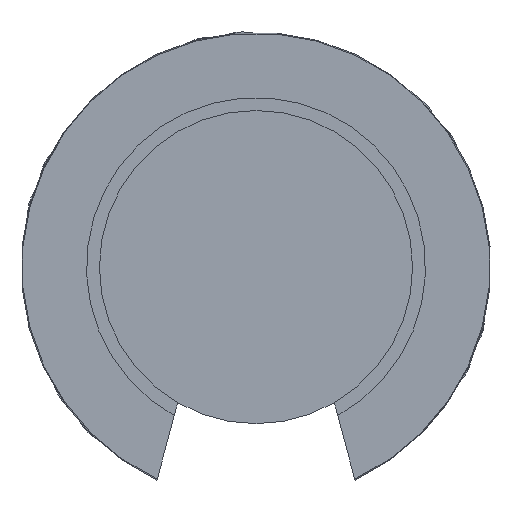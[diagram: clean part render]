
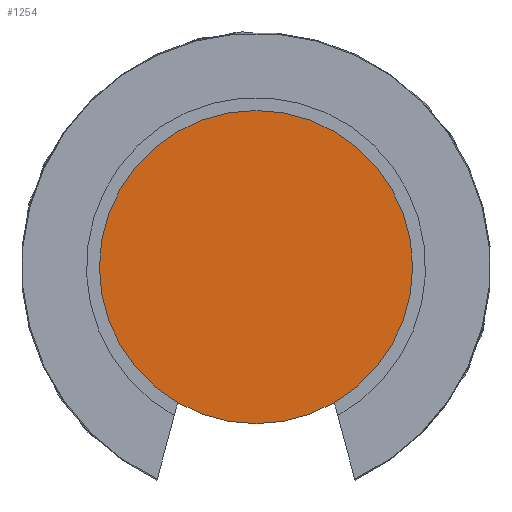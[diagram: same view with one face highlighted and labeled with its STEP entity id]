
A CAD part, front view. The second image highlights one B-rep face of the part: STEP entity #1254.
In plain terms, the highlighted planar face has unit normal (0, -1, 0).
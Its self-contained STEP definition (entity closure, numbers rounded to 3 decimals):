
#406=CARTESIAN_POINT('',(12.7,-101.6,-21.997));
#407=VERTEX_POINT('',#406);
#408=CARTESIAN_POINT('',(0.0,-101.6,0.0));
#409=DIRECTION('',(0.0,1.0,0.0));
#410=DIRECTION('',(1.0,0.0,0.0));
#411=AXIS2_PLACEMENT_3D('',#408,#409,#410);
#412=CIRCLE('',#411,25.4);
#413=EDGE_CURVE('',#407,#407,#412,.T.);
#1246=CARTESIAN_POINT('',(0.0,-101.6,0.0));
#1247=DIRECTION('',(0.0,-1.0,0.0));
#1248=DIRECTION('',(0.0,0.0,-1.0));
#1249=AXIS2_PLACEMENT_3D('',#1246,#1247,#1248);
#1250=PLANE('',#1249);
#1251=ORIENTED_EDGE('',*,*,#413,.F.);
#1252=EDGE_LOOP('',(#1251));
#1253=FACE_OUTER_BOUND('',#1252,.T.);
#1254=ADVANCED_FACE('',(#1253),#1250,.T.);
